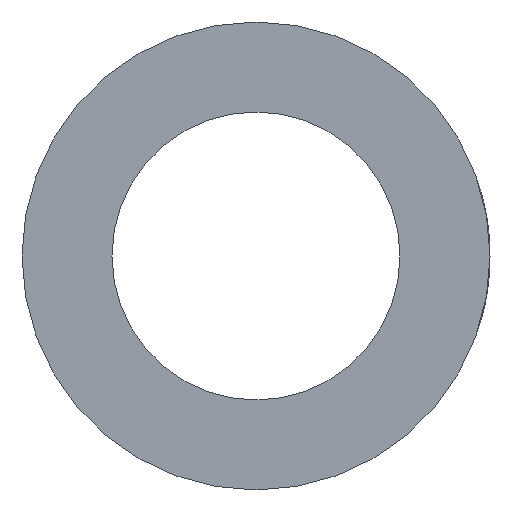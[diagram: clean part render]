
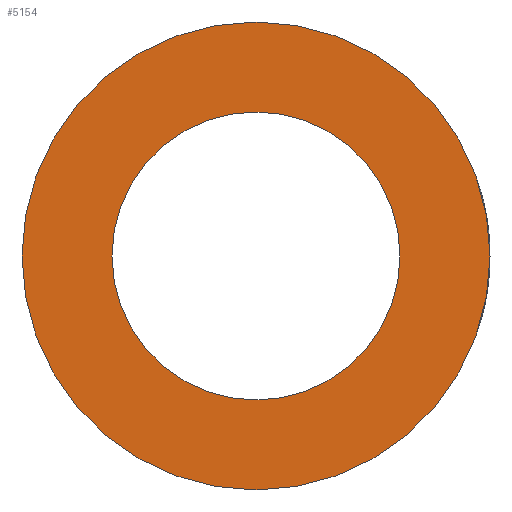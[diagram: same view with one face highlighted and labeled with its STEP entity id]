
A CAD part, left-side view. The second image highlights one B-rep face of the part: STEP entity #5154.
In plain terms, the highlighted planar face has unit normal (-1, 0, 0).
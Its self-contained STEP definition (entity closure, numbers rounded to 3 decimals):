
#114=PLANE('',#5556);
#356=CIRCLE('',#5555,13.);
#357=CIRCLE('',#5557,8.);
#1548=ORIENTED_EDGE('',*,*,#3104,.T.);
#1549=ORIENTED_EDGE('',*,*,#3103,.F.);
#3103=EDGE_CURVE('',#3881,#3881,#356,.T.);
#3104=EDGE_CURVE('',#3882,#3882,#357,.T.);
#3881=VERTEX_POINT('',#8072);
#3882=VERTEX_POINT('',#8075);
#4394=EDGE_LOOP('',(#1548));
#4395=EDGE_LOOP('',(#1549));
#4768=FACE_BOUND('',#4394,.T.);
#4769=FACE_BOUND('',#4395,.T.);
#5154=ADVANCED_FACE('',(#4768,#4769),#114,.F.);
#5555=AXIS2_PLACEMENT_3D('',#8071,#6096,#6097);
#5556=AXIS2_PLACEMENT_3D('',#8073,#6098,#6099);
#5557=AXIS2_PLACEMENT_3D('',#8074,#6100,#6101);
#6096=DIRECTION('',(1.,0.,0.));
#6097=DIRECTION('',(0.,0.,-1.));
#6098=DIRECTION('',(1.,0.,0.));
#6099=DIRECTION('',(0.,0.,-1.));
#6100=DIRECTION('',(1.,0.,0.));
#6101=DIRECTION('',(0.,0.,-1.));
#8071=CARTESIAN_POINT('',(-18.,0.,0.));
#8072=CARTESIAN_POINT('',(-18.,0.,-13.));
#8073=CARTESIAN_POINT('',(-18.,0.,0.));
#8074=CARTESIAN_POINT('',(-18.,0.,0.));
#8075=CARTESIAN_POINT('',(-18.,0.,-8.));
